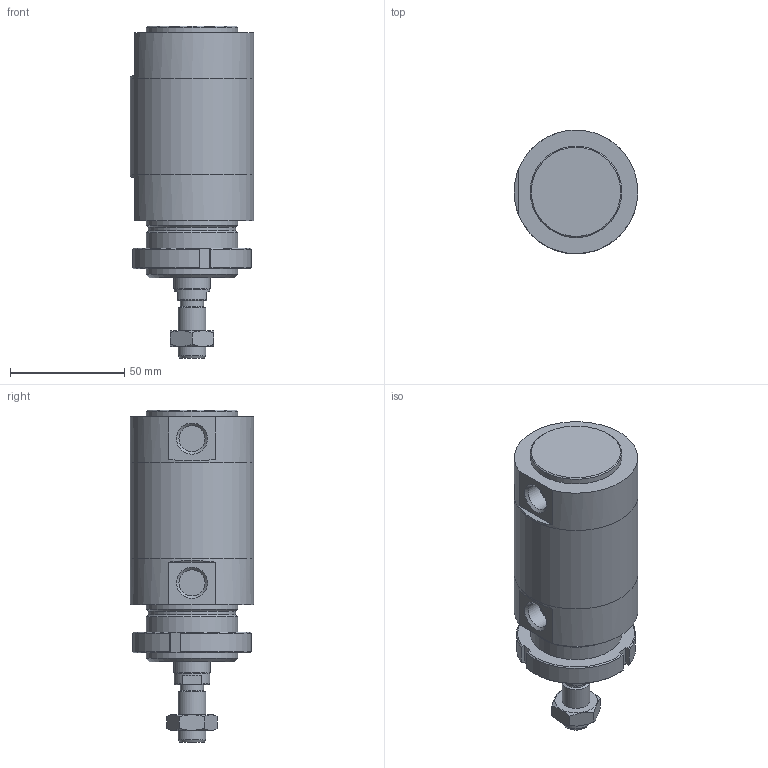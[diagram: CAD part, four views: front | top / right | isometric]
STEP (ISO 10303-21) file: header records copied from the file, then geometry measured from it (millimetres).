
FILE_DESCRIPTION(/* description */ (''),/* implementation_level */ '2;1');
FILE_NAME(/* name */ 'I:\Area Tecnica\Documenti\A-Manieri\_Inventor\12X\12X#D_###_####_#_#\12XAD_050_0000_#_#.stp',/* time_stamp */ '2015-04-29T16:43:51+02:00',/* author */ ('maniean1'),/* organization */ ('Pneumax S.p.A.'),/* preprocessor_version */ 'ST-DEVELOPER v15.2',/* originating_system */ 'Autodesk Inventor 2014',/* authorisation */ '');
FILE_SCHEMA (('AUTOMOTIVE_DESIGN { 1 0 10303 214 3 1 1 }'));
Length unit declared in the file: millimetre
Products named in the file (7): C1250_619-0000; 12X50_604; S12X50_0000; 12X_50_11; 12X50_611; G12X_050_05; 12XAD_050_0000_#_#
Bounding box: 54 x 54 x 145 mm (x, y, z)
Volume: 235469.4 mm3; surface area: 55531.7 mm2
Topology: 6 solids, 6 shells, 81 faces, 175 edges, 112 vertices
Faces by surface type: plane 41, cylinder 21, cone 19
Full cylindrical faces by diameter (mm): 10.2 x1, 11.4 x2, 12 x2, 14 x1, 15.6 x1, 16 x1, 38.2 x1, 40 x4, 50 x2, 54 x3
Entity records: 2155 total; most frequent: CARTESIAN_POINT 400, DIRECTION 364, ORIENTED_EDGE 284, AXIS2_PLACEMENT_3D 156, EDGE_CURVE 142, EDGE_LOOP 124, VERTEX_POINT 108, ADVANCED_FACE 81
